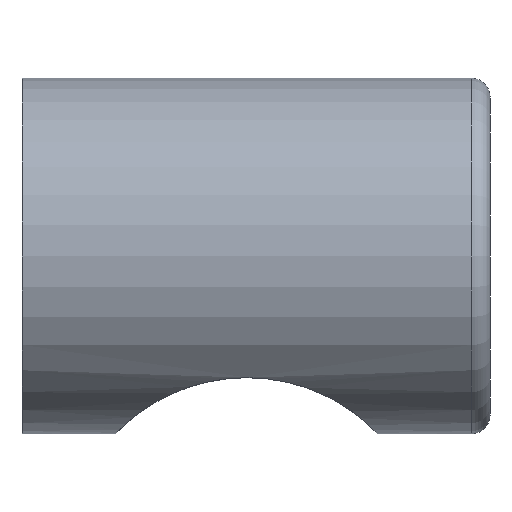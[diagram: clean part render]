
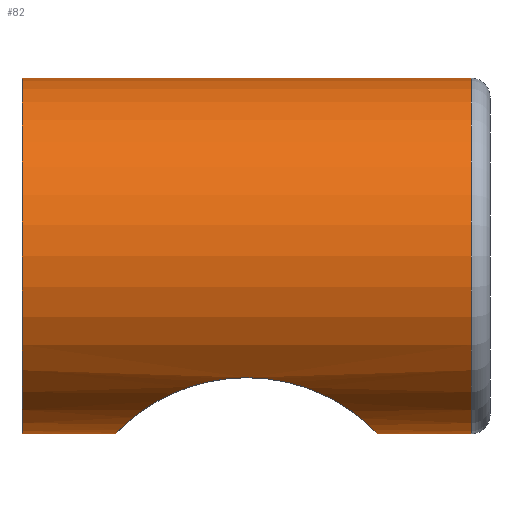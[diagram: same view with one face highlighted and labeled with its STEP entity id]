
A CAD part, left-side view. The second image highlights one B-rep face of the part: STEP entity #82.
In plain terms, the highlighted cylindrical face has radius 9.5 mm (diameter 19 mm), a partial arc.
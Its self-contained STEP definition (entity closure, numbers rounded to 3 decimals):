
#74 = EDGE_CURVE( '', #128, #90, #176, .T. );
#76 = EDGE_CURVE( '', #128, #102, #178, .T. );
#82 = ADVANCED_FACE( '', ( #185 ), #186, .T. );
#90 = VERTEX_POINT( '', #195 );
#100 = VERTEX_POINT( '', #206 );
#102 = VERTEX_POINT( '', #208 );
#112 = VERTEX_POINT( '', #220 );
#120 = EDGE_CURVE( '', #112, #102, #229, .T. );
#128 = VERTEX_POINT( '', #239 );
#132 = VERTEX_POINT( '', #243 );
#136 = EDGE_CURVE( '', #132, #90, #247, .T. );
#140 = EDGE_CURVE( '', #100, #112, #251, .T. );
#144 = EDGE_CURVE( '', #132, #100, #255, .T. );
#176 = LINE( '', #281, #282 );
#178 = CIRCLE( '', #285, 9.5 );
#185 = FACE_OUTER_BOUND( '', #292, .T. );
#186 = CYLINDRICAL_SURFACE( '', #293, 9.5 );
#195 = CARTESIAN_POINT( '', ( 0., -19., -9.5 ) );
#206 = CARTESIAN_POINT( '', ( 0., 0., -9.5 ) );
#208 = CARTESIAN_POINT( '', ( 0., -24., 9.5 ) );
#220 = CARTESIAN_POINT( '', ( 0., 0., 9.5 ) );
#229 = LINE( '', #394, #395 );
#239 = CARTESIAN_POINT( '', ( 0., -24., -9.5 ) );
#243 = CARTESIAN_POINT( '', ( 0., -5., -9.5 ) );
#247 = B_SPLINE_CURVE_WITH_KNOTS( '', 3, ( #416, #417, #418, #419, #420, #421, #422, #423, #424, #425, #426, #427, #428, #429, #430, #431, #432, #433, #434, #435, #436, #437, #438, #439, #440, #441, #442, #443, #444, #445, #446, #447, #448, #449, #450, #451, #452, #453, #454, #455, #456, #457, #458, #459, #460, #461, #462, #463, #464, #465 ), .UNSPECIFIED., .F., .F., ( 4, 2, 2, 2, 2, 2, 2, 2, 2, 2, 2, 2, 2, 2, 2, 2, 2, 2, 2, 2, 2, 2, 2, 2, 4 ), ( 22.294, 23.562, 24.83, 26.098, 27.366, 27.925, 28.484, 29.042, 29.601, 30.561, 31.521, 32.481, 33.441, 34.401, 35.361, 36.321, 37.281, 37.839, 38.398, 38.956, 39.515, 40.783, 42.051, 43.319, 44.588 ), .UNSPECIFIED. );
#251 = CIRCLE( '', #469, 9.5 );
#255 = LINE( '', #475, #476 );
#281 = CARTESIAN_POINT( '', ( 0., -12., -9.5 ) );
#282 = VECTOR( '', #503, 1. );
#285 = AXIS2_PLACEMENT_3D( '', #504, #505, #506 );
#292 = EDGE_LOOP( '', ( #514, #515, #516, #517, #518, #519 ) );
#293 = AXIS2_PLACEMENT_3D( '', #520, #521, #522 );
#394 = CARTESIAN_POINT( '', ( 0., -12., 9.5 ) );
#395 = VECTOR( '', #577, 1. );
#416 = CARTESIAN_POINT( '', ( 0., -5., -9.5 ) );
#417 = CARTESIAN_POINT( '', ( -0.423, -5., -9.5 ) );
#418 = CARTESIAN_POINT( '', ( -0.86, -5.027, -9.471 ) );
#419 = CARTESIAN_POINT( '', ( -1.73, -5.144, -9.351 ) );
#420 = CARTESIAN_POINT( '', ( -2.163, -5.234, -9.26 ) );
#421 = CARTESIAN_POINT( '', ( -2.992, -5.481, -9.027 ) );
#422 = CARTESIAN_POINT( '', ( -3.389, -5.639, -8.884 ) );
#423 = CARTESIAN_POINT( '', ( -4.122, -6.019, -8.568 ) );
#424 = CARTESIAN_POINT( '', ( -4.458, -6.242, -8.396 ) );
#425 = CARTESIAN_POINT( '', ( -4.885, -6.598, -8.149 ) );
#426 = CARTESIAN_POINT( '', ( -5.016, -6.718, -8.069 ) );
#427 = CARTESIAN_POINT( '', ( -5.27, -6.978, -7.906 ) );
#428 = CARTESIAN_POINT( '', ( -5.393, -7.117, -7.822 ) );
#429 = CARTESIAN_POINT( '', ( -5.623, -7.409, -7.658 ) );
#430 = CARTESIAN_POINT( '', ( -5.731, -7.561, -7.578 ) );
#431 = CARTESIAN_POINT( '', ( -5.928, -7.871, -7.424 ) );
#432 = CARTESIAN_POINT( '', ( -6.018, -8.029, -7.352 ) );
#433 = CARTESIAN_POINT( '', ( -6.234, -8.449, -7.171 ) );
#434 = CARTESIAN_POINT( '', ( -6.357, -8.739, -7.061 ) );
#435 = CARTESIAN_POINT( '', ( -6.569, -9.352, -6.864 ) );
#436 = CARTESIAN_POINT( '', ( -6.658, -9.675, -6.778 ) );
#437 = CARTESIAN_POINT( '', ( -6.797, -10.336, -6.638 ) );
#438 = CARTESIAN_POINT( '', ( -6.847, -10.675, -6.585 ) );
#439 = CARTESIAN_POINT( '', ( -6.913, -11.347, -6.516 ) );
#440 = CARTESIAN_POINT( '', ( -6.928, -11.68, -6.5 ) );
#441 = CARTESIAN_POINT( '', ( -6.928, -12.32, -6.5 ) );
#442 = CARTESIAN_POINT( '', ( -6.913, -12.653, -6.516 ) );
#443 = CARTESIAN_POINT( '', ( -6.847, -13.325, -6.585 ) );
#444 = CARTESIAN_POINT( '', ( -6.797, -13.664, -6.638 ) );
#445 = CARTESIAN_POINT( '', ( -6.658, -14.325, -6.778 ) );
#446 = CARTESIAN_POINT( '', ( -6.569, -14.648, -6.864 ) );
#447 = CARTESIAN_POINT( '', ( -6.357, -15.261, -7.061 ) );
#448 = CARTESIAN_POINT( '', ( -6.234, -15.551, -7.171 ) );
#449 = CARTESIAN_POINT( '', ( -6.018, -15.971, -7.352 ) );
#450 = CARTESIAN_POINT( '', ( -5.928, -16.129, -7.424 ) );
#451 = CARTESIAN_POINT( '', ( -5.731, -16.439, -7.578 ) );
#452 = CARTESIAN_POINT( '', ( -5.623, -16.591, -7.658 ) );
#453 = CARTESIAN_POINT( '', ( -5.393, -16.883, -7.822 ) );
#454 = CARTESIAN_POINT( '', ( -5.27, -17.022, -7.906 ) );
#455 = CARTESIAN_POINT( '', ( -5.016, -17.282, -8.069 ) );
#456 = CARTESIAN_POINT( '', ( -4.885, -17.402, -8.149 ) );
#457 = CARTESIAN_POINT( '', ( -4.458, -17.758, -8.396 ) );
#458 = CARTESIAN_POINT( '', ( -4.122, -17.981, -8.568 ) );
#459 = CARTESIAN_POINT( '', ( -3.389, -18.361, -8.884 ) );
#460 = CARTESIAN_POINT( '', ( -2.992, -18.519, -9.027 ) );
#461 = CARTESIAN_POINT( '', ( -2.163, -18.766, -9.26 ) );
#462 = CARTESIAN_POINT( '', ( -1.73, -18.856, -9.351 ) );
#463 = CARTESIAN_POINT( '', ( -0.86, -18.973, -9.471 ) );
#464 = CARTESIAN_POINT( '', ( -0.423, -19., -9.5 ) );
#465 = CARTESIAN_POINT( '', ( 0., -19., -9.5 ) );
#469 = AXIS2_PLACEMENT_3D( '', #593, #594, #595 );
#475 = CARTESIAN_POINT( '', ( 0., -12., -9.5 ) );
#476 = VECTOR( '', #599, 1. );
#503 = DIRECTION( '', ( 0., 1., 0. ) );
#504 = CARTESIAN_POINT( '', ( 0., -24., 0. ) );
#505 = DIRECTION( '', ( 0., 1., 0. ) );
#506 = DIRECTION( '', ( 0., 0., -1. ) );
#514 = ORIENTED_EDGE( '', *, *, #74, .F. );
#515 = ORIENTED_EDGE( '', *, *, #76, .T. );
#516 = ORIENTED_EDGE( '', *, *, #120, .F. );
#517 = ORIENTED_EDGE( '', *, *, #140, .F. );
#518 = ORIENTED_EDGE( '', *, *, #144, .F. );
#519 = ORIENTED_EDGE( '', *, *, #136, .T. );
#520 = CARTESIAN_POINT( '', ( 0., -12., 0. ) );
#521 = DIRECTION( '', ( 0., -1., 0. ) );
#522 = DIRECTION( '', ( 0., 0., -1. ) );
#577 = DIRECTION( '', ( 0., -1., 0. ) );
#593 = CARTESIAN_POINT( '', ( 0., 0., 0. ) );
#594 = DIRECTION( '', ( 0., 1., 0. ) );
#595 = DIRECTION( '', ( 0., 0., -1. ) );
#599 = DIRECTION( '', ( 0., 1., 0. ) );
